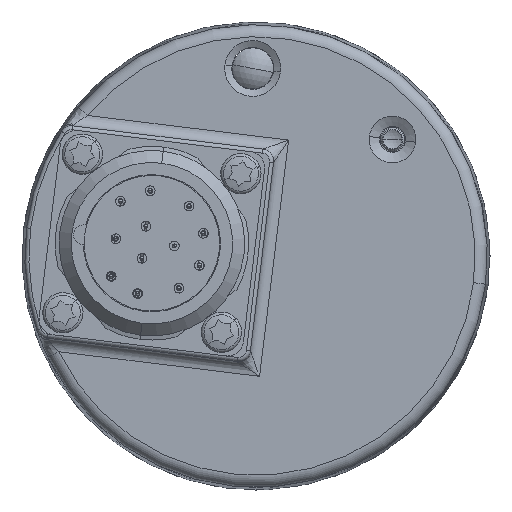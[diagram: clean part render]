
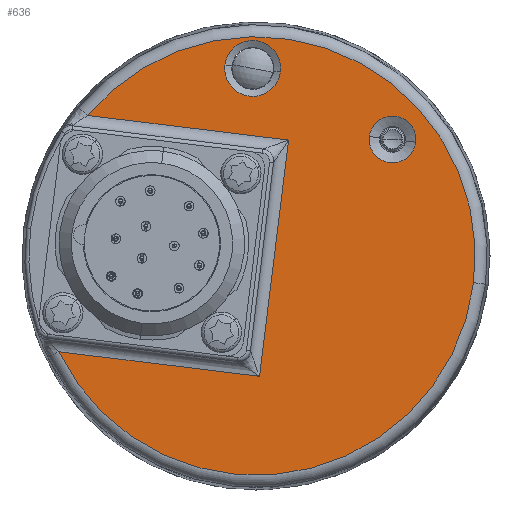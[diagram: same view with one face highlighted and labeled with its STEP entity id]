
A CAD part, left-side view. The second image highlights one B-rep face of the part: STEP entity #636.
In plain terms, the highlighted planar face has unit normal (-1, 0, 0).
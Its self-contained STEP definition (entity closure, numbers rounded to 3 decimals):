
#199 = EDGE_LOOP ( 'NONE', ( #200, #354, #356, #357, #360 ) ) ;
#200 = ORIENTED_EDGE ( 'NONE', *, *, #201, .T. ) ;
#201 = EDGE_CURVE ( 'NONE', #202, #203, #4651, .T. ) ;
#202 = VERTEX_POINT ( 'NONE', #4647 ) ;
#203 = VERTEX_POINT ( 'NONE', #4646 ) ;
#335 = VERTEX_POINT ( 'NONE', #12301 ) ;
#337 = EDGE_CURVE ( 'NONE', #338, #335, #12454, .T. ) ;
#338 = VERTEX_POINT ( 'NONE', #12292 ) ;
#351 = EDGE_CURVE ( 'NONE', #563, #566, #12322, .T. ) ;
#354 = ORIENTED_EDGE ( 'NONE', *, *, #355, .T. ) ;
#355 = EDGE_CURVE ( 'NONE', #203, #3345, #12313, .T. ) ;
#356 = ORIENTED_EDGE ( 'NONE', *, *, #3344, .T. ) ;
#357 = ORIENTED_EDGE ( 'NONE', *, *, #358, .T. ) ;
#358 = EDGE_CURVE ( 'NONE', #3346, #359, #12399, .T. ) ;
#359 = VERTEX_POINT ( 'NONE', #12395 ) ;
#360 = ORIENTED_EDGE ( 'NONE', *, *, #361, .T. ) ;
#361 = EDGE_CURVE ( 'NONE', #359, #202, #12393, .T. ) ;
#563 = VERTEX_POINT ( 'NONE', #13469 ) ;
#565 = EDGE_CURVE ( 'NONE', #566, #563, #13468, .T. ) ;
#566 = VERTEX_POINT ( 'NONE', #13463 ) ;
#635 = EDGE_CURVE ( 'NONE', #335, #338, #13672, .T. ) ;
#636 = ADVANCED_FACE ( 'NONE', ( #13662, #13661, #13660 ), #13615, .F. ) ;
#637 = EDGE_LOOP ( 'NONE', ( #638, #639 ) ) ;
#638 = ORIENTED_EDGE ( 'NONE', *, *, #337, .T. ) ;
#639 = ORIENTED_EDGE ( 'NONE', *, *, #635, .T. ) ;
#640 = EDGE_LOOP ( 'NONE', ( #641, #642 ) ) ;
#641 = ORIENTED_EDGE ( 'NONE', *, *, #565, .T. ) ;
#642 = ORIENTED_EDGE ( 'NONE', *, *, #351, .T. ) ;
#3344 = EDGE_CURVE ( 'NONE', #3345, #3346, #11054, .T. ) ;
#3345 = VERTEX_POINT ( 'NONE', #11045 ) ;
#3346 = VERTEX_POINT ( 'NONE', #11044 ) ;
#4646 = CARTESIAN_POINT ( 'NONE',  ( -19., 24.448, -11.859 ) ) ;
#4647 = CARTESIAN_POINT ( 'NONE',  ( -19., -0.436, -14.914 ) ) ;
#4648 = DIRECTION ( 'NONE',  ( 0., 0.993, 0.122 ) ) ;
#4649 = VECTOR ( 'NONE', #4648, 1000. ) ;
#4650 = CARTESIAN_POINT ( 'NONE',  ( -19., 27.014, -11.544 ) ) ;
#4651 = LINE ( 'NONE', #4650, #4649 ) ;
#11044 = CARTESIAN_POINT ( 'NONE',  ( -19., 20.853, 17.421 ) ) ;
#11045 = CARTESIAN_POINT ( 'NONE',  ( -19., -26.97, -3.312 ) ) ;
#11046 = DIRECTION ( 'NONE',  ( 0., -0.993, -0.122 ) ) ;
#11047 = DIRECTION ( 'NONE',  ( -1., 0., 0. ) ) ;
#11048 = CARTESIAN_POINT ( 'NONE',  ( -19., 0., 0. ) ) ;
#11049 = AXIS2_PLACEMENT_3D ( 'NONE', #11048, #11047, #11046 ) ;
#11054 = CIRCLE ( 'NONE', #11049, 27.173 ) ;
#12291 = CARTESIAN_POINT ( 'NONE',  ( -19., 0.406, 23.246 ) ) ;
#12292 = CARTESIAN_POINT ( 'NONE',  ( -19., 3.846, 23.669 ) ) ;
#12301 = CARTESIAN_POINT ( 'NONE',  ( -19., -3.034, 22.824 ) ) ;
#12309 = DIRECTION ( 'NONE',  ( 0., -0.993, -0.122 ) ) ;
#12310 = DIRECTION ( 'NONE',  ( -1., 0., 0. ) ) ;
#12311 = CARTESIAN_POINT ( 'NONE',  ( -19., 0., 0. ) ) ;
#12312 = AXIS2_PLACEMENT_3D ( 'NONE', #12311, #12310, #12309 ) ;
#12313 = CIRCLE ( 'NONE', #12312, 27.173 ) ;
#12314 = DIRECTION ( 'NONE',  ( 0., -0.993, -0.122 ) ) ;
#12315 = DIRECTION ( 'NONE',  ( 1., 0., 0. ) ) ;
#12316 = CARTESIAN_POINT ( 'NONE',  ( -19., -16.919, 14.45 ) ) ;
#12317 = AXIS2_PLACEMENT_3D ( 'NONE', #12316, #12315, #12314 ) ;
#12322 = CIRCLE ( 'NONE', #12317, 2.899 ) ;
#12390 = DIRECTION ( 'NONE',  ( 0., 0.122, -0.993 ) ) ;
#12391 = VECTOR ( 'NONE', #12390, 1000. ) ;
#12392 = CARTESIAN_POINT ( 'NONE',  ( -19., -0.618, -13.425 ) ) ;
#12393 = LINE ( 'NONE', #12392, #12391 ) ;
#12395 = CARTESIAN_POINT ( 'NONE',  ( -19., -4.031, 14.366 ) ) ;
#12396 = DIRECTION ( 'NONE',  ( 0., -0.993, -0.122 ) ) ;
#12397 = VECTOR ( 'NONE', #12396, 1000. ) ;
#12398 = CARTESIAN_POINT ( 'NONE',  ( -19., -2.542, 14.549 ) ) ;
#12399 = LINE ( 'NONE', #12398, #12397 ) ;
#12410 = DIRECTION ( 'NONE',  ( 0., -0.993, -0.122 ) ) ;
#12411 = DIRECTION ( 'NONE',  ( 1., 0., 0. ) ) ;
#12453 = AXIS2_PLACEMENT_3D ( 'NONE', #12291, #12411, #12410 ) ;
#12454 = CIRCLE ( 'NONE', #12453, 3.466 ) ;
#13463 = CARTESIAN_POINT ( 'NONE',  ( -19., -14.042, 14.804 ) ) ;
#13464 = DIRECTION ( 'NONE',  ( 0., -0.993, -0.122 ) ) ;
#13465 = DIRECTION ( 'NONE',  ( 1., 0., 0. ) ) ;
#13466 = CARTESIAN_POINT ( 'NONE',  ( -19., -16.919, 14.45 ) ) ;
#13467 = AXIS2_PLACEMENT_3D ( 'NONE', #13466, #13465, #13464 ) ;
#13468 = CIRCLE ( 'NONE', #13467, 2.899 ) ;
#13469 = CARTESIAN_POINT ( 'NONE',  ( -19., -19.796, 14.097 ) ) ;
#13610 = DIRECTION ( 'NONE',  ( 0., -0.993, -0.122 ) ) ;
#13611 = DIRECTION ( 'NONE',  ( 1., 0., 0. ) ) ;
#13612 = CARTESIAN_POINT ( 'NONE',  ( -19., 0., 0. ) ) ;
#13613 = AXIS2_PLACEMENT_3D ( 'NONE', #13612, #13611, #13610 ) ;
#13615 = PLANE ( 'NONE',  #13613 ) ;
#13660 = FACE_OUTER_BOUND ( 'NONE', #199, .T. ) ;
#13661 = FACE_BOUND ( 'NONE', #640, .T. ) ;
#13662 = FACE_BOUND ( 'NONE', #637, .T. ) ;
#13663 = DIRECTION ( 'NONE',  ( 0., -0.993, -0.122 ) ) ;
#13664 = DIRECTION ( 'NONE',  ( 1., 0., 0. ) ) ;
#13665 = CARTESIAN_POINT ( 'NONE',  ( -19., 0.406, 23.246 ) ) ;
#13666 = AXIS2_PLACEMENT_3D ( 'NONE', #13665, #13664, #13663 ) ;
#13672 = CIRCLE ( 'NONE', #13666, 3.466 ) ;
